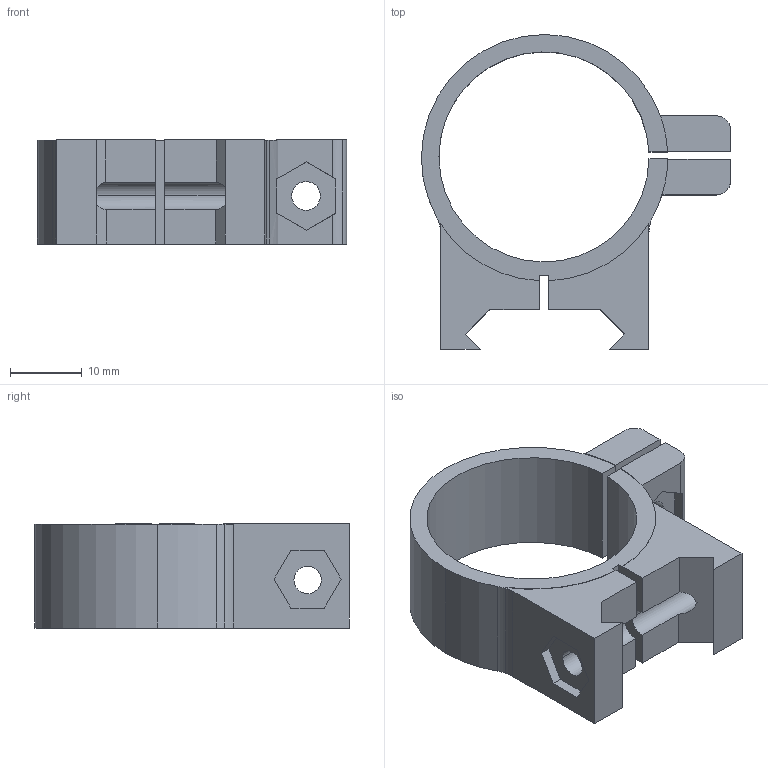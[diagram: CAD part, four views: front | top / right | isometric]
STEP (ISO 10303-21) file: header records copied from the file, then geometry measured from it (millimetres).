
FILE_DESCRIPTION(('STEP AP214'),'1');
FILE_NAME('C:/Users/Dorko/Desktop/RR-picatinny flashlight mount.stp','2015-02-12T01:04:15',(''),(''),'Spatial InterOp 3D',' ',' ');
FILE_SCHEMA(('automotive_design'));
Length unit declared in the file: inch
Products named in the file (1): Part_4461
Bounding box: 43.13 x 43.91 x 14.59 mm (x, y, z)
Volume: 7695.4 mm3; surface area: 5657.5 mm2
Topology: 1 solids, 1 shells, 81 faces, 230 edges, 152 vertices
Faces by surface type: plane 50, cylinder 31
Entity records: 3330 total; most frequent: CARTESIAN_POINT 464, DIRECTION 464, ORIENTED_EDGE 460, EDGE_CURVE 230, LINE 160, VECTOR 160, AXIS2_PLACEMENT_3D 152, VERTEX_POINT 152
